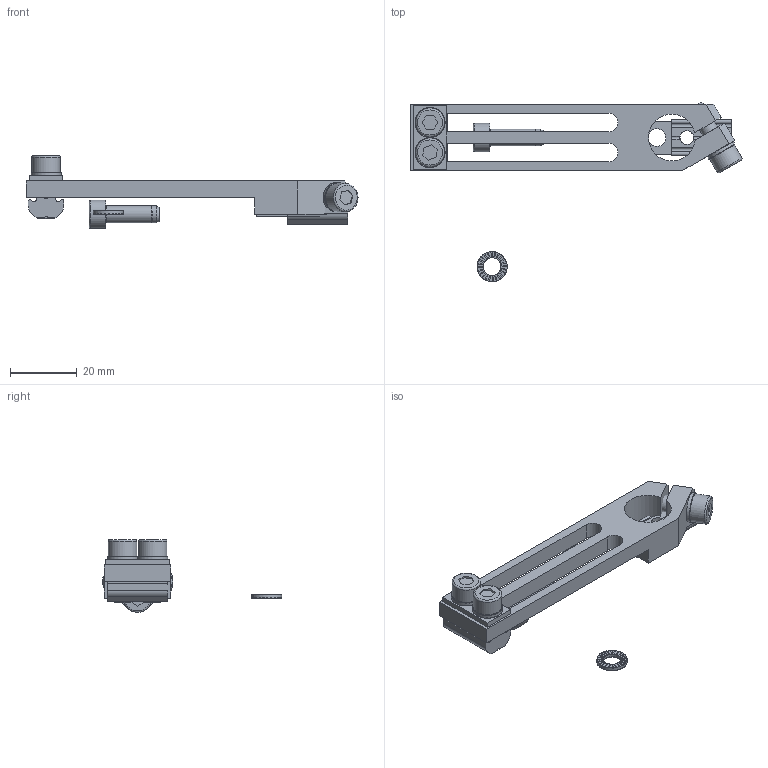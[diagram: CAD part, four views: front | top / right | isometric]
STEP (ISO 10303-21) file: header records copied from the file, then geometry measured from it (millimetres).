
FILE_DESCRIPTION( ( 'STEP AP214' ), '1' );
FILE_NAME( 'C:/Users/Segreteria/Desktop/CA.WSL.1450.U.X.stp', '2014-07-10T09:55:40', ( ' ' ), ( ' ' ), 'XStep 1.0', ' ', ' ' );
FILE_SCHEMA( ( 'CONFIG_CONTROL_DESIGN) ( )' ) );
Length unit declared in the file: metre
Products named in the file (9): Assem1; Assem2; WSL.1450.U; R.5.SCH; V-tcei M  5 x 16; R.05.09; CA.GWP.5.9; V-tcei M  5 x 14
Bounding box: 99.41 x 53.69 x 21.85 mm (x, y, z)
Volume: 24979.7 mm3; surface area: 23030.5 mm2
Topology: 14 solids, 19 shells, 1226 faces, 3552 edges, 2355 vertices
Faces by surface type: plane 1128, cylinder 77, torus 14, cone 7
Full cylindrical faces by diameter (mm): 4.134 x7, 5 x7, 5.3 x9, 5.5 x3, 8.5 x7, 9 x5
Entity records: 9982 total; most frequent: CARTESIAN_POINT 1762, DIRECTION 1692, ORIENTED_EDGE 1642, EDGE_CURVE 821, AXIS2_PLACEMENT_3D 567, LINE 558, VECTOR 558, VERTEX_POINT 557
